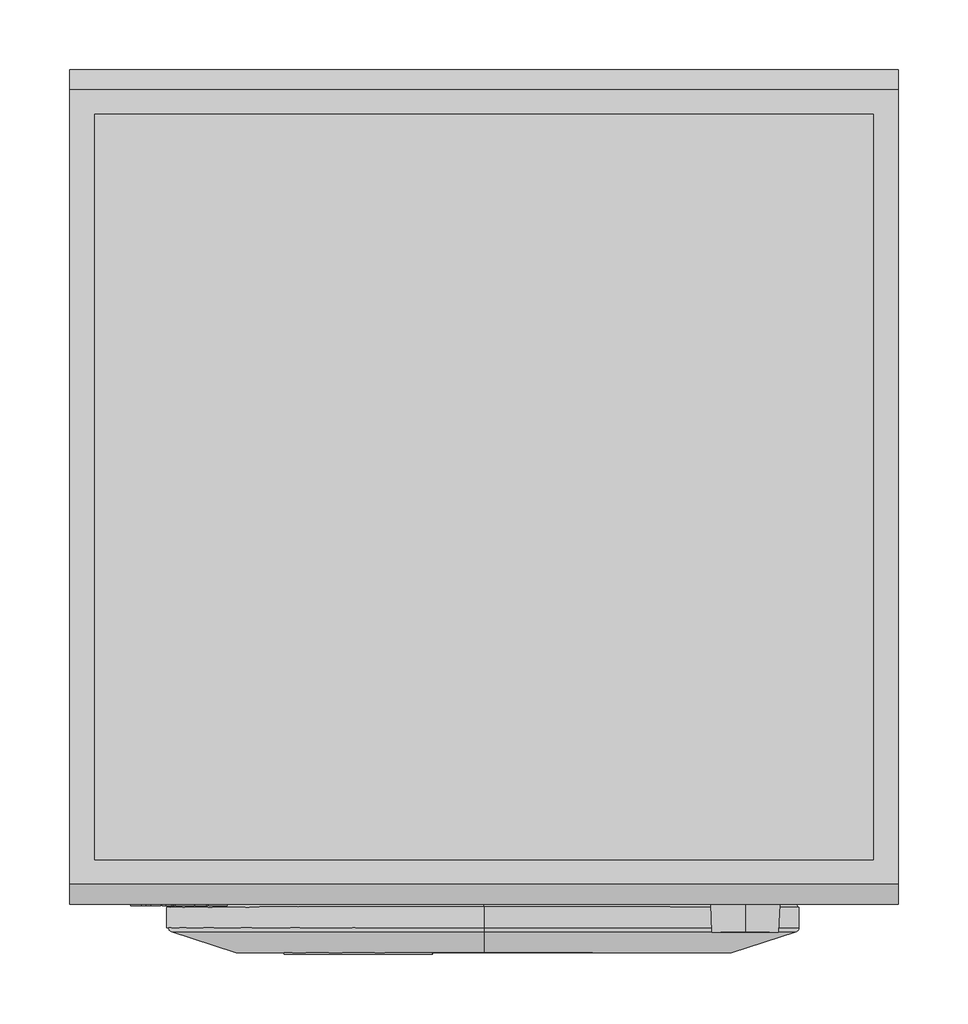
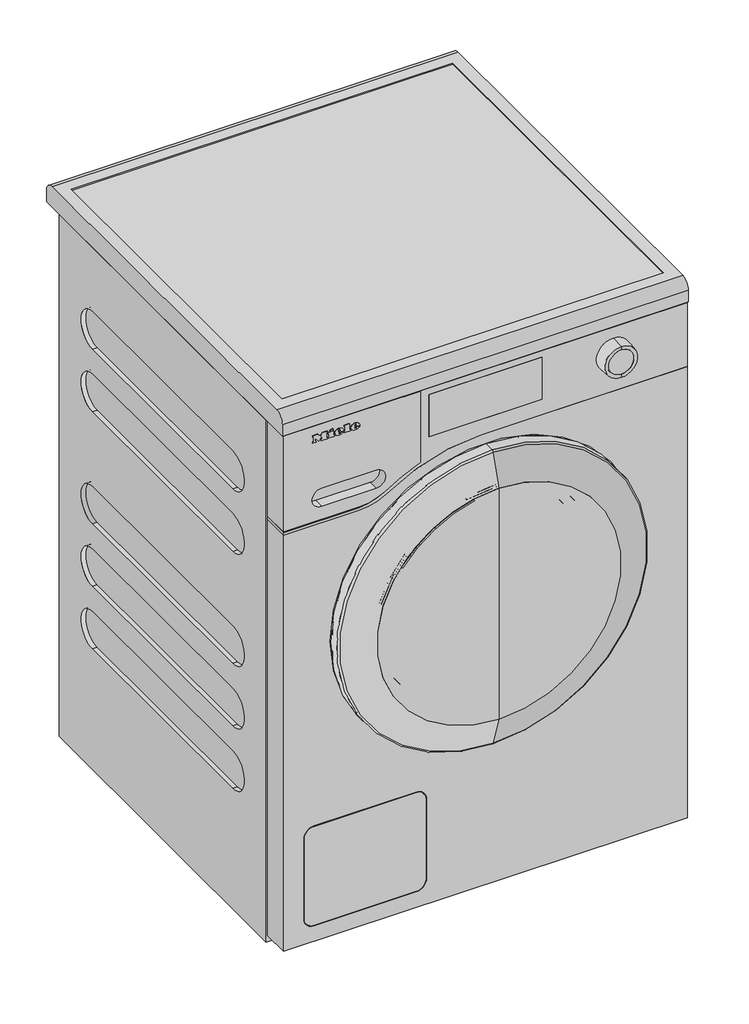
# Not in any storey: 1 proxy.
"""IFC4 building model written with IfcOpenShell, lengths in millimetres."""

from ifc_helpers import new_model, si_unit, origin, place, context, project, spatial, transform, mapped, element, save
from components import specialty_equipment_32876fde, specialty_equipment_8c3d0925

model = new_model("IFC4")

# Units and contexts
model_context = context("Model", 3, world=origin())
ifc_project = project(units=[si_unit("LENGTHUNIT", "METRE", prefix="MILLI")], contexts=[model_context])

# Site, building
site = spatial("IfcSite", under=ifc_project)
building = spatial("IfcBuilding", under=site)

# Proxy
placement = place(None, origin())
specialty_equipment_shape = specialty_equipment_32876fde(model_context)
specialty_equipment_2_shape = specialty_equipment_8c3d0925(model_context)
element("IfcBuildingElementProxy", 1, Name="12401050_EU1_WEG365WCS_LW : 11EG3655_EU1_12401050_WEG365WCS_LW", ObjectType="12401050_EU1_WEG365WCS_LW : 11EG3655_EU1_12401050_WEG365WCS_LW", at=placement, inside=building, context=model_context, shape_type="MappedRepresentation", body=[
    mapped(specialty_equipment_shape, transform((0.0, 0.0, 0.0), x_axis=(1.0, 0.0, 0.0), y_axis=(0.0, 1.0, 0.0), z_axis=(0.0, 0.0, 1.0))),
    mapped(specialty_equipment_2_shape, transform((0.0, 0.0, 0.0), x_axis=(1.0, 0.0, 0.0), y_axis=(0.0, 1.0, 0.0), z_axis=(0.0, 0.0, 1.0))),
])

save(model, "model.ifc")
